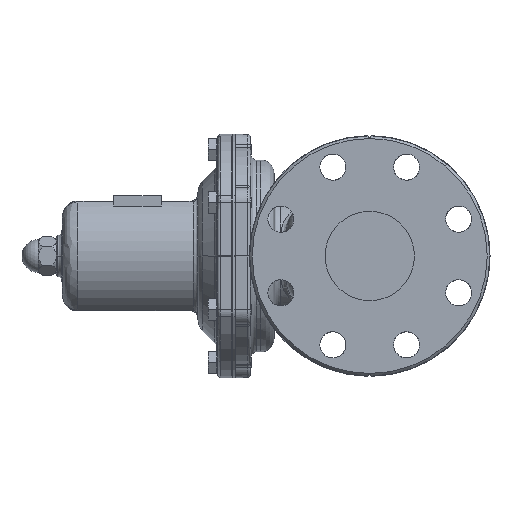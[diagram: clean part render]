
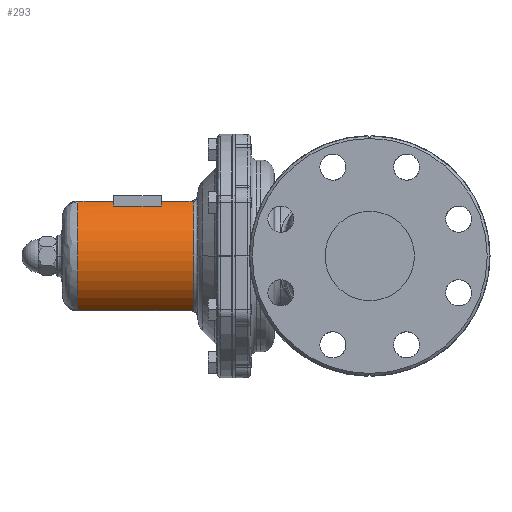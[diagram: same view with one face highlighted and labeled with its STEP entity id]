
A CAD part, left-side view. The second image highlights one B-rep face of the part: STEP entity #293.
In plain terms, the highlighted cylindrical face has radius 45 mm (diameter 90 mm), a partial arc.
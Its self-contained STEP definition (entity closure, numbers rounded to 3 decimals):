
#293=ADVANCED_FACE('',(#1228),#1227,.T.);
#1227=CYLINDRICAL_SURFACE('',#8763,45.);
#1228=FACE_OUTER_BOUND('',#8764,.T.);
#8760=CARTESIAN_POINT('',(0.,0.,0.));
#8761=DIRECTION('',(0.,0.,1.));
#8762=DIRECTION('',(1.,0.,0.));
#8763=AXIS2_PLACEMENT_3D('',#8760,#8761,#8762);
#8764=EDGE_LOOP('',(#21333,#21334,#21335,#21336,#21337,#21338,#21339,#21340,#21341,#21342,#21343,#21344));
#21333=ORIENTED_EDGE('',*,*,#24636,.F.);
#21334=ORIENTED_EDGE('',*,*,#24637,.T.);
#21335=ORIENTED_EDGE('',*,*,#24600,.T.);
#21336=ORIENTED_EDGE('',*,*,#24596,.T.);
#21337=ORIENTED_EDGE('',*,*,#24638,.T.);
#21338=ORIENTED_EDGE('',*,*,#24624,.T.);
#21339=ORIENTED_EDGE('',*,*,#24634,.T.);
#21340=ORIENTED_EDGE('',*,*,#24639,.T.);
#21341=ORIENTED_EDGE('',*,*,#24615,.T.);
#21342=ORIENTED_EDGE('',*,*,#24640,.T.);
#21343=ORIENTED_EDGE('',*,*,#24641,.F.);
#21344=ORIENTED_EDGE('',*,*,#24642,.F.);
#24596=EDGE_CURVE('',#26490,#26483,#26491,.T.);
#24600=EDGE_CURVE('',#26503,#26490,#26516,.T.);
#24615=EDGE_CURVE('',#26617,#26610,#26618,.T.);
#24624=EDGE_CURVE('',#26678,#26679,#26680,.T.);
#24634=EDGE_CURVE('',#26679,#26630,#26744,.T.);
#24636=EDGE_CURVE('',#26756,#26757,#26758,.T.);
#24637=EDGE_CURVE('',#26756,#26503,#26764,.T.);
#24638=EDGE_CURVE('',#26483,#26678,#26770,.T.);
#24639=EDGE_CURVE('',#26630,#26617,#26776,.T.);
#24640=EDGE_CURVE('',#26610,#26782,#26783,.T.);
#24641=EDGE_CURVE('',#26789,#26782,#26790,.T.);
#24642=EDGE_CURVE('',#26757,#26789,#26796,.T.);
#26483=VERTEX_POINT('',#37446);
#26490=VERTEX_POINT('',#37471);
#26491=CIRCLE('',#37475,45.);
#26503=VERTEX_POINT('',#37500);
#26516=(BOUNDED_CURVE() B_SPLINE_CURVE(3,(#37509,#37510,#37511,#37512),.UNSPECIFIED.,.F.,.F.) B_SPLINE_CURVE_WITH_KNOTS((4,4),(0.,0.),.UNSPECIFIED.) CURVE() GEOMETRIC_REPRESENTATION_ITEM() RATIONAL_B_SPLINE_CURVE((1.,1.,1.,1.)) REPRESENTATION_ITEM('') );
#26610=VERTEX_POINT('',#37660);
#26617=VERTEX_POINT('',#37665);
#26618=(BOUNDED_CURVE() B_SPLINE_CURVE(3,(#37666,#37667,#37668,#37669),.UNSPECIFIED.,.F.,.F.) B_SPLINE_CURVE_WITH_KNOTS((4,4),(0.,0.002),.UNSPECIFIED.) CURVE() GEOMETRIC_REPRESENTATION_ITEM() RATIONAL_B_SPLINE_CURVE((1.,1.,1.,1.)) REPRESENTATION_ITEM('') );
#26630=VERTEX_POINT('',#37674);
#26678=VERTEX_POINT('',#37762);
#26679=VERTEX_POINT('',#37763);
#26680=LINE('',#37764,#37765);
#26744=(BOUNDED_CURVE() B_SPLINE_CURVE(3,(#37838,#37839,#37840,#37841,#37842,#37843),.UNSPECIFIED.,.F.,.F.) B_SPLINE_CURVE_WITH_KNOTS((4,2,4),(0.,0.001,0.002),.UNSPECIFIED.) CURVE() GEOMETRIC_REPRESENTATION_ITEM() RATIONAL_B_SPLINE_CURVE((1.,1.,1.,1.,1.,1.)) REPRESENTATION_ITEM('') );
#26756=VERTEX_POINT('',#37850);
#26757=VERTEX_POINT('',#37851);
#26758=CIRCLE('',#37855,45.);
#26764=LINE('',#37856,#37857);
#26770=(BOUNDED_CURVE() B_SPLINE_CURVE(3,(#37859,#37860,#37861,#37862),.UNSPECIFIED.,.F.,.F.) B_SPLINE_CURVE_WITH_KNOTS((4,4),(0.,0.),.UNSPECIFIED.) CURVE() GEOMETRIC_REPRESENTATION_ITEM() RATIONAL_B_SPLINE_CURVE((1.,1.,1.,1.)) REPRESENTATION_ITEM('') );
#26776=CIRCLE('',#37866,45.);
#26782=VERTEX_POINT('',#37867);
#26783=LINE('',#37868,#37869);
#26789=VERTEX_POINT('',#37871);
#26790=CIRCLE('',#37875,45.);
#26796=LINE('',#37876,#37877);
#37446=CARTESIAN_POINT('',(-21.786,39.375,112.877));
#37471=CARTESIAN_POINT('',(-21.786,-39.375,112.877));
#37472=CARTESIAN_POINT('',(0.,0.,112.877));
#37473=DIRECTION('',(0.,0.,-1.));
#37474=DIRECTION('',(-0.484,0.875,0.));
#37475=AXIS2_PLACEMENT_3D('',#37472,#37473,#37474);
#37500=CARTESIAN_POINT('',(-21.786,-39.375,112.847));
#37509=CARTESIAN_POINT('',(-21.786,-39.375,112.847));
#37510=CARTESIAN_POINT('',(-21.786,-39.375,112.857));
#37511=CARTESIAN_POINT('',(-21.786,-39.375,112.867));
#37512=CARTESIAN_POINT('',(-21.786,-39.375,112.877));
#37660=CARTESIAN_POINT('',(-21.786,-39.375,30.5));
#37665=CARTESIAN_POINT('',(-21.554,-39.502,29.));
#37666=CARTESIAN_POINT('',(-21.554,-39.502,29.));
#37667=CARTESIAN_POINT('',(-21.706,-39.419,29.486));
#37668=CARTESIAN_POINT('',(-21.786,-39.375,29.985));
#37669=CARTESIAN_POINT('',(-21.786,-39.375,30.5));
#37674=CARTESIAN_POINT('',(-21.554,39.502,29.));
#37762=CARTESIAN_POINT('',(-21.786,39.375,112.847));
#37763=CARTESIAN_POINT('',(-21.786,39.375,30.5));
#37764=CARTESIAN_POINT('',(-21.786,39.375,112.847));
#37765=VECTOR('',#37766,82.347);
#37766=DIRECTION('',(0.,0.,-1.));
#37838=CARTESIAN_POINT('',(-21.786,39.375,30.5));
#37839=CARTESIAN_POINT('',(-21.786,39.375,30.244));
#37840=CARTESIAN_POINT('',(-21.765,39.386,29.988));
#37841=CARTESIAN_POINT('',(-21.687,39.429,29.487));
#37842=CARTESIAN_POINT('',(-21.629,39.461,29.241));
#37843=CARTESIAN_POINT('',(-21.554,39.502,29.));
#37850=CARTESIAN_POINT('',(-21.786,-39.375,86.75));
#37851=CARTESIAN_POINT('',(-26.5,-36.37,86.75));
#37852=CARTESIAN_POINT('',(0.,0.,86.75));
#37853=DIRECTION('',(0.,0.,-1.));
#37854=DIRECTION('',(1.,0.,0.));
#37855=AXIS2_PLACEMENT_3D('',#37852,#37853,#37854);
#37856=CARTESIAN_POINT('',(-21.786,-39.375,86.75));
#37857=VECTOR('',#37858,26.097);
#37858=DIRECTION('',(0.,0.,1.));
#37859=CARTESIAN_POINT('',(-21.786,39.375,112.877));
#37860=CARTESIAN_POINT('',(-21.786,39.375,112.867));
#37861=CARTESIAN_POINT('',(-21.786,39.375,112.857));
#37862=CARTESIAN_POINT('',(-21.786,39.375,112.847));
#37863=CARTESIAN_POINT('',(0.,0.,29.));
#37864=DIRECTION('',(0.,0.,1.));
#37865=DIRECTION('',(1.,0.,0.));
#37866=AXIS2_PLACEMENT_3D('',#37863,#37864,#37865);
#37867=CARTESIAN_POINT('',(-21.786,-39.375,52.25));
#37868=CARTESIAN_POINT('',(-21.786,-39.375,30.5));
#37869=VECTOR('',#37870,21.75);
#37870=DIRECTION('',(0.,0.,1.));
#37871=CARTESIAN_POINT('',(-26.5,-36.37,52.25));
#37872=CARTESIAN_POINT('',(0.,0.,52.25));
#37873=DIRECTION('',(0.,0.,1.));
#37874=DIRECTION('',(-1.,0.,0.));
#37875=AXIS2_PLACEMENT_3D('',#37872,#37873,#37874);
#37876=CARTESIAN_POINT('',(-26.5,-36.37,86.75));
#37877=VECTOR('',#37878,34.5);
#37878=DIRECTION('',(0.,0.,-1.));
